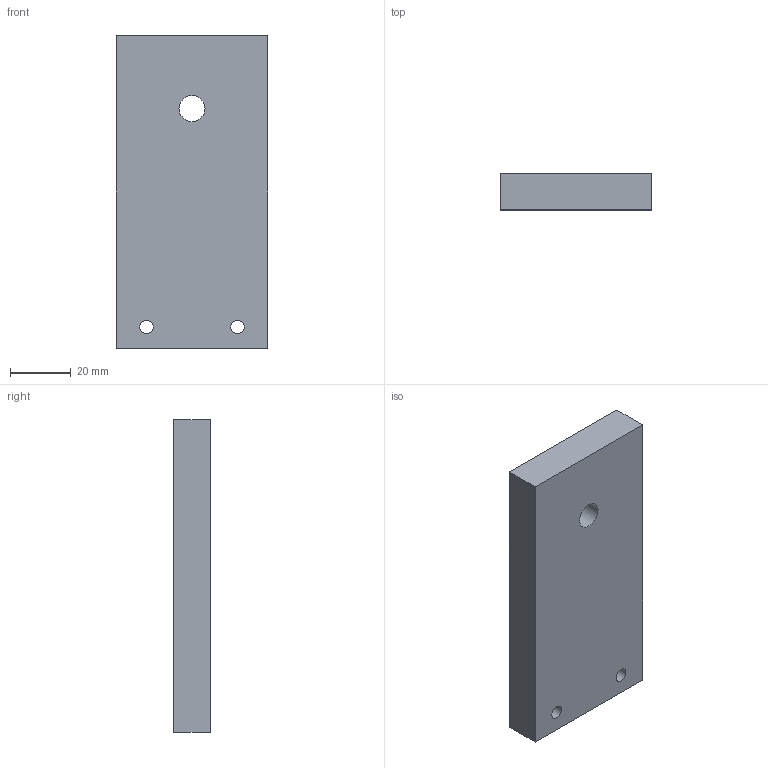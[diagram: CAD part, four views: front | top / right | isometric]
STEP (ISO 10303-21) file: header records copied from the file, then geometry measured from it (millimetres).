
FILE_DESCRIPTION(('Open CASCADE Model'),'2;1');
FILE_NAME('Open CASCADE Shape Model','2026-10-26T17:58:52',('Author'),( 'Open CASCADE'),'Open CASCADE STEP processor 7.9','Open CASCADE 7.9' ,'Unknown');
FILE_SCHEMA(('AUTOMOTIVE_DESIGN { 1 0 10303 214 1 1 1 1 }'));
Length unit declared in the file: millimetre
Products named in the file (1): Open CASCADE STEP translator 7.9 14
Bounding box: 50 x 12 x 103 mm (x, y, z)
Volume: 60721.2 mm3; surface area: 14455.7 mm2
Topology: 1 solids, 1 shells, 9 faces, 21 edges, 14 vertices
Faces by surface type: plane 6, cylinder 3
Full cylindrical faces by diameter (mm): 4.5 x2, 8.6 x1
Entity records: 556 total; most frequent: DIRECTION 89, CARTESIAN_POINT 87, LINE 51, VECTOR 51, ORIENTED_EDGE 42, PCURVE 42, DEFINITIONAL_REPRESENTATION 42, EDGE_CURVE 21
